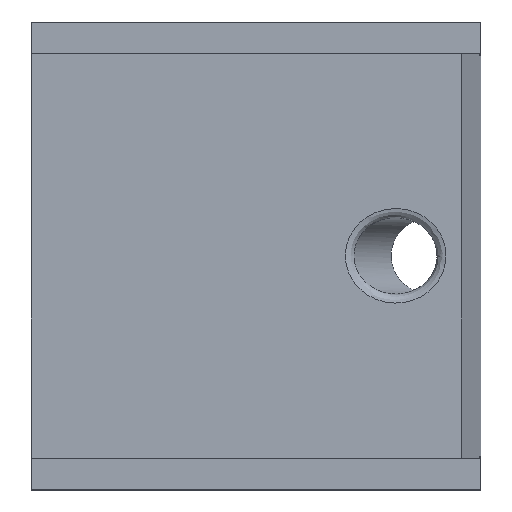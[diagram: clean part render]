
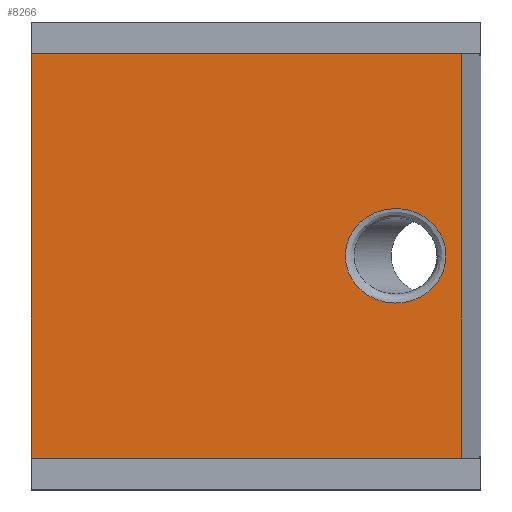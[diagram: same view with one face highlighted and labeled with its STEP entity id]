
A CAD part, top view. The second image highlights one B-rep face of the part: STEP entity #8266.
In plain terms, the highlighted planar face has unit normal (0, 0, 1).
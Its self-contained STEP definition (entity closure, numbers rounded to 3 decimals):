
#105 = CARTESIAN_POINT ( 'NONE',  ( 34.937, -10.5, 12. ) ) ;
#213 = CARTESIAN_POINT ( 'NONE',  ( 46.111, 10.5, 12. ) ) ;
#1026 = ORIENTED_EDGE ( 'NONE', *, *, #2544, .F. ) ;
#1057 = CARTESIAN_POINT ( 'NONE',  ( 46.111, -10.5, 12. ) ) ;
#1317 = CARTESIAN_POINT ( 'NONE',  ( 0., 22.5, 12. ) ) ;
#1595 = EDGE_LOOP ( 'NONE', ( #4372, #1026, #5343, #2855 ) ) ;
#1741 = DIRECTION ( 'NONE',  ( 0., 0., -1. ) ) ;
#1839 = CARTESIAN_POINT ( 'NONE',  ( 0., 22.5, 12. ) ) ;
#1955 = VECTOR ( 'NONE', #9480, 1000. ) ;
#2126 = LINE ( 'NONE', #8507, #7655 ) ;
#2198 = CARTESIAN_POINT ( 'NONE',  ( 46.111, 0., 12. ) ) ;
#2404 = CARTESIAN_POINT ( 'NONE',  ( 0., 22.5, 12. ) ) ;
#2544 = EDGE_CURVE ( 'NONE', #10078, #2548, #2126, .T. ) ;
#2548 = VERTEX_POINT ( 'NONE', #6243 ) ;
#2627 = CARTESIAN_POINT ( 'NONE',  ( 34.937, 0., 12. ) ) ;
#2855 = ORIENTED_EDGE ( 'NONE', *, *, #4321, .T. ) ;
#2890 = AXIS2_PLACEMENT_3D ( 'NONE', #1839, #1741, #8169 ) ;
#3309 = CARTESIAN_POINT ( 'NONE',  ( 46.111, 0., 12. ) ) ;
#3342 = LINE ( 'NONE', #4827, #8572 ) ;
#4268 = CARTESIAN_POINT ( 'NONE',  ( 46.111, 0., 12. ) ) ;
#4321 = EDGE_CURVE ( 'NONE', #9076, #6830, #7171, .T. ) ;
#4372 = ORIENTED_EDGE ( 'NONE', *, *, #5016, .T. ) ;
#4827 = CARTESIAN_POINT ( 'NONE',  ( 0., -22.5, 12. ) ) ;
#5016 = EDGE_CURVE ( 'NONE', #6830, #2548, #3342, .T. ) ;
#5122 = CARTESIAN_POINT ( 'NONE',  ( 47.816, 22.5, 12. ) ) ;
#5343 = ORIENTED_EDGE ( 'NONE', *, *, #9693, .F. ) ;
#6243 = CARTESIAN_POINT ( 'NONE',  ( 47.816, -22.5, 12. ) ) ;
#6536 = FACE_OUTER_BOUND ( 'NONE', #1595, .T. ) ;
#6713 = CARTESIAN_POINT ( 'NONE',  ( 0., -22.5, 12. ) ) ;
#6830 = VERTEX_POINT ( 'NONE', #6713 ) ;
#6947 = ORIENTED_EDGE ( 'NONE', *, *, #8262, .T. ) ;
#7171 = LINE ( 'NONE', #10428, #1955 ) ;
#7329 = CARTESIAN_POINT ( 'NONE',  ( 34.937, 10.5, 12. ) ) ;
#7655 = VECTOR ( 'NONE', #7774, 1000. ) ;
#7774 = DIRECTION ( 'NONE',  ( 0., -1., 0. ) ) ;
#8046 = EDGE_LOOP ( 'NONE', ( #6947 ) ) ;
#8169 = DIRECTION ( 'NONE',  ( -1., 0., 0. ) ) ;
#8262 = EDGE_CURVE ( 'NONE', #10108, #10108, #8890, .T. ) ;
#8266 = ADVANCED_FACE ( 'NONE', ( #9007, #6536 ), #9742, .F. ) ;
#8507 = CARTESIAN_POINT ( 'NONE',  ( 47.816, 22.5, 12. ) ) ;
#8572 = VECTOR ( 'NONE', #8988, 1000. ) ;
#8890 =( BOUNDED_CURVE ( )  B_SPLINE_CURVE ( 3, ( #4268, #1057, #105, #2627, #7329, #213, #3309 ),
 .UNSPECIFIED., .T., .F. ) 
 B_SPLINE_CURVE_WITH_KNOTS ( ( 4, 3, 4 ),
 ( 0., 3.142, 6.283 ),
 .UNSPECIFIED. ) 
 CURVE ( )  GEOMETRIC_REPRESENTATION_ITEM ( )  RATIONAL_B_SPLINE_CURVE ( ( 1., 0.333, 0.333, 1., 0.333, 0.333, 1. ) ) 
 REPRESENTATION_ITEM ( '' )  );
#8988 = DIRECTION ( 'NONE',  ( 1., 0., 0. ) ) ;
#9007 = FACE_BOUND ( 'NONE', #8046, .T. ) ;
#9076 = VERTEX_POINT ( 'NONE', #1317 ) ;
#9480 = DIRECTION ( 'NONE',  ( 0., -1., 0. ) ) ;
#9515 = DIRECTION ( 'NONE',  ( 1., 0., 0. ) ) ;
#9693 = EDGE_CURVE ( 'NONE', #9076, #10078, #10307, .T. ) ;
#9742 = PLANE ( 'NONE',  #2890 ) ;
#9755 = VECTOR ( 'NONE', #9515, 1000. ) ;
#10078 = VERTEX_POINT ( 'NONE', #5122 ) ;
#10108 = VERTEX_POINT ( 'NONE', #2198 ) ;
#10307 = LINE ( 'NONE', #2404, #9755 ) ;
#10428 = CARTESIAN_POINT ( 'NONE',  ( 0., 22.5, 12. ) ) ;
